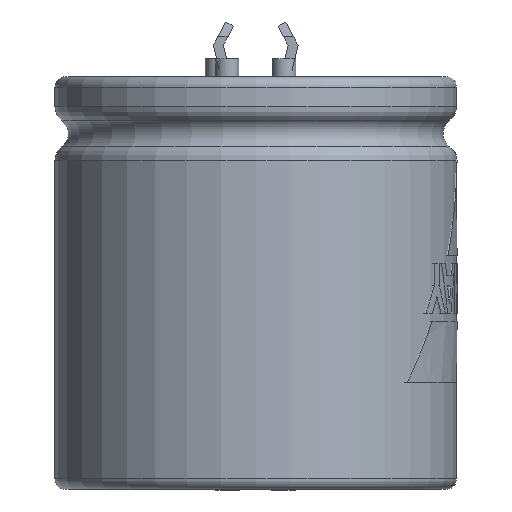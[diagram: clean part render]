
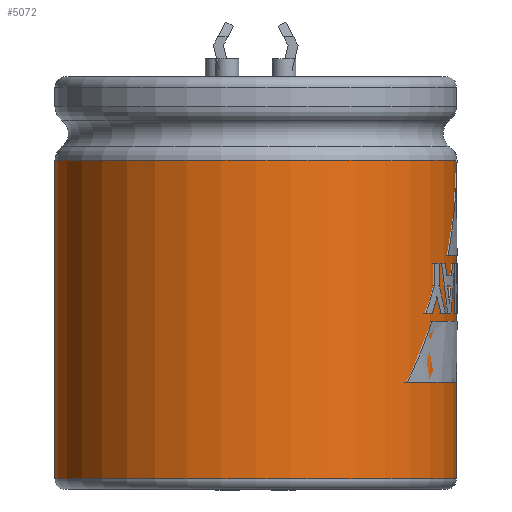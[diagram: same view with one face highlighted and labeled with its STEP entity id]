
A CAD part, left-side view. The second image highlights one B-rep face of the part: STEP entity #5072.
In plain terms, the highlighted cylindrical face has radius 18 mm (diameter 36 mm), a full revolution.
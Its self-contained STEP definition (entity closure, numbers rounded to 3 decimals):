
#5004 = TOROIDAL_SURFACE('',#5005,16.5,1.5);
#5005 = AXIS2_PLACEMENT_3D('',#5006,#5007,#5008);
#5006 = CARTESIAN_POINT('',(0.,0.,-6.55));
#5007 = DIRECTION('',(0.,0.,1.));
#5008 = DIRECTION('',(1.,0.,0.));
#5020 = EDGE_CURVE('',#5021,#5021,#5023,.T.);
#5021 = VERTEX_POINT('',#5022);
#5022 = CARTESIAN_POINT('',(18.,0.,-6.55));
#5023 = SURFACE_CURVE('',#5024,(#5029,#5036),.PCURVE_S1.);
#5024 = CIRCLE('',#5025,18.);
#5025 = AXIS2_PLACEMENT_3D('',#5026,#5027,#5028);
#5026 = CARTESIAN_POINT('',(0.,0.,-6.55));
#5027 = DIRECTION('',(0.,0.,1.));
#5028 = DIRECTION('',(1.,0.,0.));
#5029 = PCURVE('',#5004,#5030);
#5030 = DEFINITIONAL_REPRESENTATION('',(#5031),#5035);
#5031 = LINE('',#5032,#5033);
#5032 = CARTESIAN_POINT('',(0.,6.283));
#5033 = VECTOR('',#5034,1.);
#5034 = DIRECTION('',(1.,0.));
#5035 = ( GEOMETRIC_REPRESENTATION_CONTEXT(2) 
PARAMETRIC_REPRESENTATION_CONTEXT() REPRESENTATION_CONTEXT('2D SPACE',''
  ) );
#5036 = PCURVE('',#5037,#5042);
#5037 = CYLINDRICAL_SURFACE('',#5038,18.);
#5038 = AXIS2_PLACEMENT_3D('',#5039,#5040,#5041);
#5039 = CARTESIAN_POINT('',(0.,0.,-35.1));
#5040 = DIRECTION('',(0.,0.,1.));
#5041 = DIRECTION('',(1.,0.,0.));
#5042 = DEFINITIONAL_REPRESENTATION('',(#5043),#5047);
#5043 = LINE('',#5044,#5045);
#5044 = CARTESIAN_POINT('',(0.,28.55));
#5045 = VECTOR('',#5046,1.);
#5046 = DIRECTION('',(1.,0.));
#5047 = ( GEOMETRIC_REPRESENTATION_CONTEXT(2) 
PARAMETRIC_REPRESENTATION_CONTEXT() REPRESENTATION_CONTEXT('2D SPACE',''
  ) );
#5072 = ADVANCED_FACE('',(#5073),#5037,.T.);
#5073 = FACE_BOUND('',#5074,.T.);
#5074 = EDGE_LOOP('',(#5075,#5104,#5125,#5126));
#5075 = ORIENTED_EDGE('',*,*,#5076,.T.);
#5076 = EDGE_CURVE('',#5077,#5077,#5079,.T.);
#5077 = VERTEX_POINT('',#5078);
#5078 = CARTESIAN_POINT('',(18.,0.,-35.1));
#5079 = SURFACE_CURVE('',#5080,(#5085,#5092),.PCURVE_S1.);
#5080 = CIRCLE('',#5081,18.);
#5081 = AXIS2_PLACEMENT_3D('',#5082,#5083,#5084);
#5082 = CARTESIAN_POINT('',(0.,0.,-35.1));
#5083 = DIRECTION('',(0.,0.,1.));
#5084 = DIRECTION('',(1.,0.,0.));
#5085 = PCURVE('',#5037,#5086);
#5086 = DEFINITIONAL_REPRESENTATION('',(#5087),#5091);
#5087 = LINE('',#5088,#5089);
#5088 = CARTESIAN_POINT('',(0.,0.));
#5089 = VECTOR('',#5090,1.);
#5090 = DIRECTION('',(1.,0.));
#5091 = ( GEOMETRIC_REPRESENTATION_CONTEXT(2) 
PARAMETRIC_REPRESENTATION_CONTEXT() REPRESENTATION_CONTEXT('2D SPACE',''
  ) );
#5092 = PCURVE('',#5093,#5098);
#5093 = TOROIDAL_SURFACE('',#5094,17.05,0.95);
#5094 = AXIS2_PLACEMENT_3D('',#5095,#5096,#5097);
#5095 = CARTESIAN_POINT('',(0.,0.,-35.1));
#5096 = DIRECTION('',(0.,0.,1.));
#5097 = DIRECTION('',(1.,0.,0.));
#5098 = DEFINITIONAL_REPRESENTATION('',(#5099),#5103);
#5099 = LINE('',#5100,#5101);
#5100 = CARTESIAN_POINT('',(0.,6.283));
#5101 = VECTOR('',#5102,1.);
#5102 = DIRECTION('',(1.,0.));
#5103 = ( GEOMETRIC_REPRESENTATION_CONTEXT(2) 
PARAMETRIC_REPRESENTATION_CONTEXT() REPRESENTATION_CONTEXT('2D SPACE',''
  ) );
#5104 = ORIENTED_EDGE('',*,*,#5105,.T.);
#5105 = EDGE_CURVE('',#5077,#5021,#5106,.T.);
#5106 = SEAM_CURVE('',#5107,(#5111,#5118),.PCURVE_S1.);
#5107 = LINE('',#5108,#5109);
#5108 = CARTESIAN_POINT('',(18.,0.,-35.1));
#5109 = VECTOR('',#5110,1.);
#5110 = DIRECTION('',(0.,0.,1.));
#5111 = PCURVE('',#5037,#5112);
#5112 = DEFINITIONAL_REPRESENTATION('',(#5113),#5117);
#5113 = LINE('',#5114,#5115);
#5114 = CARTESIAN_POINT('',(0.,0.));
#5115 = VECTOR('',#5116,1.);
#5116 = DIRECTION('',(0.,1.));
#5117 = ( GEOMETRIC_REPRESENTATION_CONTEXT(2) 
PARAMETRIC_REPRESENTATION_CONTEXT() REPRESENTATION_CONTEXT('2D SPACE',''
  ) );
#5118 = PCURVE('',#5037,#5119);
#5119 = DEFINITIONAL_REPRESENTATION('',(#5120),#5124);
#5120 = LINE('',#5121,#5122);
#5121 = CARTESIAN_POINT('',(6.283,0.));
#5122 = VECTOR('',#5123,1.);
#5123 = DIRECTION('',(0.,1.));
#5124 = ( GEOMETRIC_REPRESENTATION_CONTEXT(2) 
PARAMETRIC_REPRESENTATION_CONTEXT() REPRESENTATION_CONTEXT('2D SPACE',''
  ) );
#5125 = ORIENTED_EDGE('',*,*,#5020,.F.);
#5126 = ORIENTED_EDGE('',*,*,#5105,.F.);
